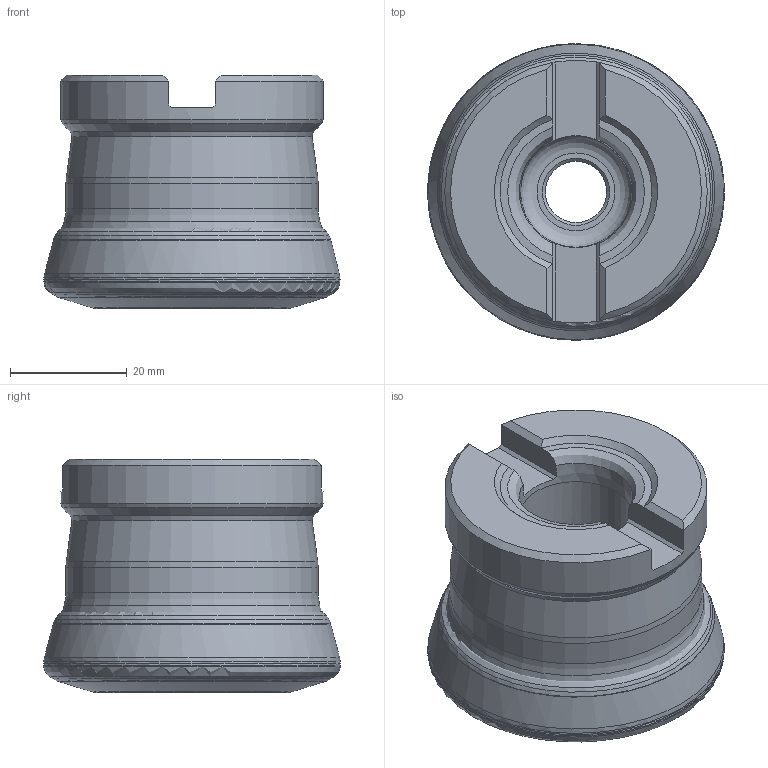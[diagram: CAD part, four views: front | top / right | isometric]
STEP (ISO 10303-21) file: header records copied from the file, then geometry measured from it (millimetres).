
FILE_DESCRIPTION(/* description */ (''),/* implementation_level */ '2;1');
FILE_NAME(/* name */ 'xmr03-2.00''''-a0.75''''-sn12-05c.stp',/* time_stamp */ '2023-03-05T11:01:03+08:00',/* author */ (''),/* organization */ (''),/* preprocessor_version */ 'ST-DEVELOPER v16.7',/* originating_system */ 'SIEMENS PLM Software NX 12.0',/* authorisation */ '');
FILE_SCHEMA (('AUTOMOTIVE_DESIGN { 1 0 10303 214 3 1 1 1 }'));
Length unit declared in the file: millimetre
Products named in the file (1): xinx2650453B10zi
Bounding box: 50.83 x 50.83 x 40.01 mm (x, y, z)
Volume: 64781.5 mm3; surface area: 15586.1 mm2
Topology: 2 solids, 2 shells, 96 faces, 221 edges, 131 vertices
Faces by surface type: cone 31, torus 27, plane 20, cylinder 11, revolution 7
Full cylindrical faces by diameter (mm): 10.5 x1, 16 x1, 19.05 x1, 21.05 x1, 43.24 x1, 45 x1, 49 x1
Entity records: 2808 total; most frequent: CARTESIAN_POINT 1093, DIRECTION 321, ORIENTED_EDGE 268, EDGE_LOOP 166, AXIS2_PLACEMENT_3D 145, FACE_BOUND 142, EDGE_CURVE 134, VERTEX_POINT 110
